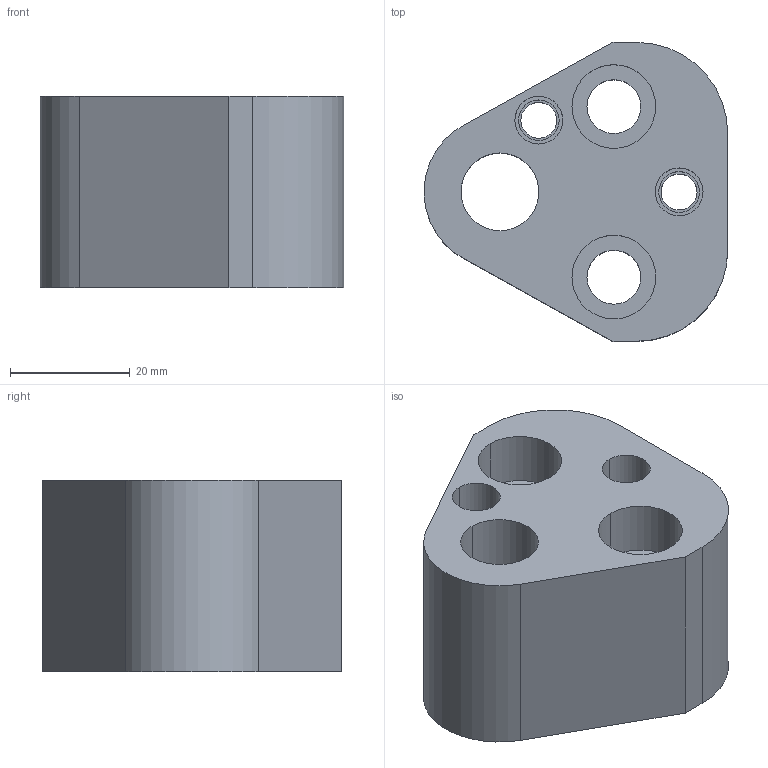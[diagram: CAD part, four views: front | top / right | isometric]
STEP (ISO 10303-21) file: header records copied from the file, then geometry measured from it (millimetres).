
FILE_DESCRIPTION(/* description */ (''),/* implementation_level */ '2;1');
FILE_NAME(/* name */ '3d_crn-a13_03611_r00.stp',/* time_stamp */ '2011-01-10T14:16:25+09:00',/* author */ ('MISUMI'),/* organization */ (''),/* preprocessor_version */ 'ST-DEVELOPER v11',/* originating_system */ 'UGS - NX 5.0',/* authorisation */ '');
FILE_SCHEMA (('CONFIG_CONTROL_DESIGN'));
Length unit declared in the file: millimetre
Products named in the file (1): 3d_crn-a13_03611_r00
Bounding box: 50.76 x 50 x 32 mm (x, y, z)
Volume: 46870.9 mm3; surface area: 13099.1 mm2
Topology: 1 solids, 1 shells, 41 faces, 96 edges, 64 vertices
Faces by surface type: cylinder 27, plane 14
Entity records: 1310 total; most frequent: DIRECTION 234, CARTESIAN_POINT 202, ORIENTED_EDGE 192, EDGE_CURVE 96, AXIS2_PLACEMENT_3D 96, VERTEX_POINT 64, EDGE_LOOP 58, CIRCLE 54
